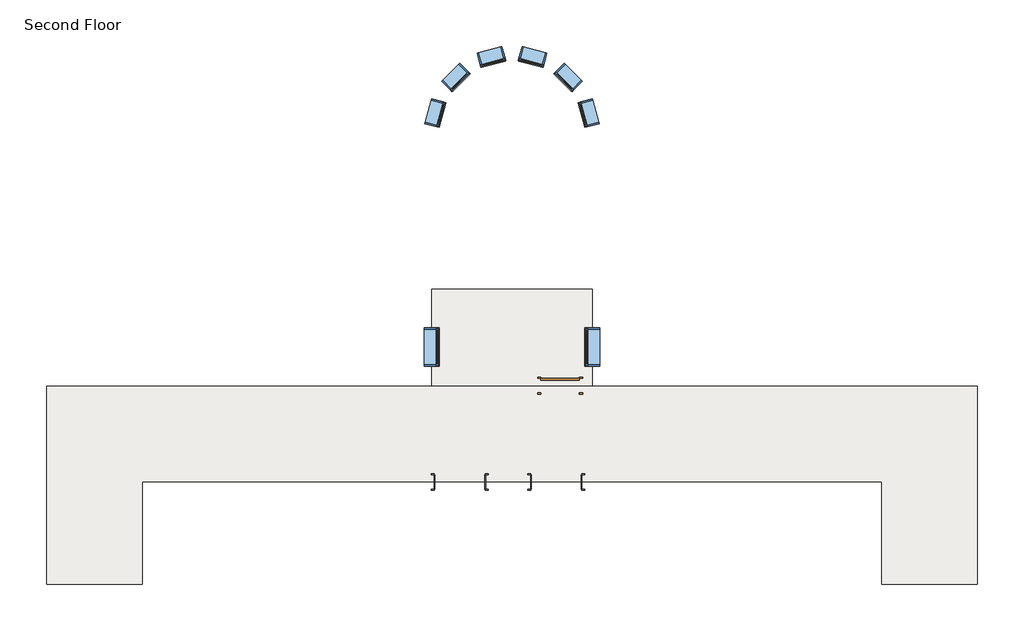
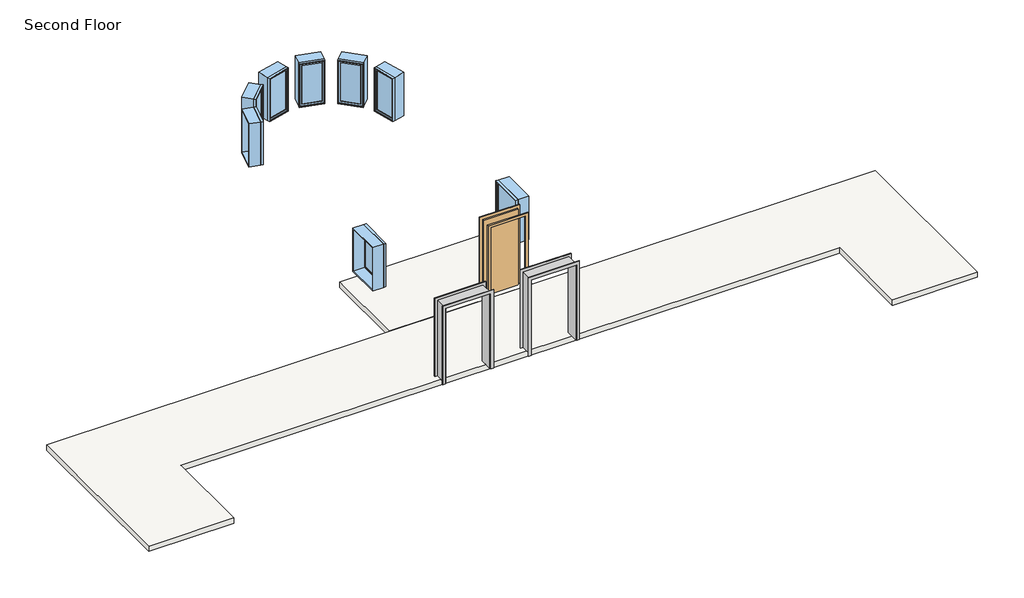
# One storey: 8 windows, 2 proxies, 2 slabs, 1 door.
"""IFC4 building model written with IfcOpenShell, lengths in millimetres."""

from ifc_helpers import new_model, si_unit, frame, origin, place, context, project, spatial, polyline, outline, extrude, transform, mapped, element, save
from components import m_passage_opening_cased_1220_x_2134mm_f04423fa, m_single_flush_0915_x_2134mm_1eac8bb1, m_fixed_0610_x_1220mm_2c28ef1d, m_fixed_0610_x_1220mm_1ea27827, m_fixed_0915_x_1220mm_bde29121

model = new_model("IFC4")

# Units and contexts
model_context = context("Model", 3, world=origin())
ifc_project = project(units=[si_unit("LENGTHUNIT", "METRE", prefix="MILLI")], contexts=[model_context])

# Site, building, storey
site = spatial("IfcSite", under=ifc_project)
building = spatial("IfcBuilding", under=site)
storey = spatial("IfcBuildingStorey", under=building, Name="Second Floor", Elevation=3048.0)

# Proxies
placement = place(None, origin())
m_passage_opening_cased_1220_x_2134mm_shape = m_passage_opening_cased_1220_x_2134mm_f04423fa(model_context)
element("IfcBuildingElementProxy", 1, Name="M_Passage Opening-Cased : 1220 x 2134mm", ObjectType="M_Passage Opening-Cased : 1220 x 2134mm", at=placement, inside=storey, context=model_context, shape_type="MappedRepresentation", body=[
    mapped(m_passage_opening_cased_1220_x_2134mm_shape, transform((3529.9038, -3050.7443399, 3048.0), x_axis=(-1.0, 0.0, 0.0), y_axis=(0.0, -1.0, 0.0), z_axis=(0.0, 0.0, 1.0))),
])
element("IfcBuildingElementProxy", 2, Name="M_Passage Opening-Cased : 1220 x 2134mm", ObjectType="M_Passage Opening-Cased : 1220 x 2134mm", at=placement, inside=storey, context=model_context, shape_type="MappedRepresentation", body=[
    mapped(m_passage_opening_cased_1220_x_2134mm_shape, transform((1260.2811134, -3050.7443399, 3048.0), x_axis=(1.0, 0.0, 0.0), y_axis=(0.0, 1.0, 0.0), z_axis=(0.0, 0.0, 1.0))),
])

# Door
m_single_flush_0915_x_2134mm_shape = m_single_flush_0915_x_2134mm_1eac8bb1(model_context)
element("IfcDoor", 3, ObjectType="M_Single-Flush : 0915 x 2134mm", at=placement, inside=storey, context=model_context, shape_type="MappedRepresentation", body=[
    mapped(m_single_flush_0915_x_2134mm_shape, transform((3632.0924567, -764.7443399, 3048.0), x_axis=(1.0, 0.0, 0.0), y_axis=(0.0, 1.0, 0.0), z_axis=(0.0, 0.0, 1.0))),
])

# Slabs
element("IfcSlab", 4, ObjectType="Generic 150mm", at=placement, inside=storey, context=model_context, shape_type="SweptSolid", body=[
    extrude(outline(polyline([(13528.0924567, -774.7443399), (13528.0924567, -5479.1443399), (11262.0924567, -5479.1443399), (11262.0924567, -3040.7443399), (-6283.9075433, -3040.7443399), (-6283.9075433, -5479.1443399), (-8549.9075433, -5479.1443399), (-8549.9075433, -774.7443399), (13528.0924567, -774.7443399)])), frame((0.0, 0.0, 2898.0), z_axis=(0.0, 0.0, 1.0), x_axis=(1.0, 0.0, 0.0)), (0.0, 0.0, 1.0), 150.0),
])
element("IfcSlab", 5, ObjectType="Generic 150mm", at=placement, inside=storey, context=model_context, shape_type="SweptSolid", body=[
    extrude(outline(polyline([(4394.0924567, -764.7443399), (584.0924567, -764.7443399), (584.0924567, 1521.2556601), (4394.0924567, 1521.2556601), (4394.0924567, -764.7443399)])), frame((0.0, 0.0, 2898.0), z_axis=(0.0, 0.0, 1.0), x_axis=(1.0, 0.0, 0.0)), (0.0, 0.0, 1.0), 150.0),
])

# Windows
m_fixed_0610_x_1220mm_shape = m_fixed_0610_x_1220mm_2c28ef1d(model_context)
element("IfcWindow", 6, ObjectType="M_Fixed : 0610 x 1220mm", at=placement, inside=storey, context=model_context, shape_type="MappedRepresentation", body=[
    mapped(m_fixed_0610_x_1220mm_shape, transform((658.1639152, 5700.8514842, 3048.0), x_axis=(-0.2588190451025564, -0.9659258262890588, 0.0), y_axis=(0.9659258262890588, -0.2588190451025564, 0.0), z_axis=(0.0, 0.0, 1.0))),
])
element("IfcWindow", 7, ObjectType="M_Fixed : 0610 x 1220mm", at=placement, inside=storey, context=model_context, shape_type="MappedRepresentation", body=[
    mapped(m_fixed_0610_x_1220mm_shape, transform((1998.4966326, 7041.1842016, 3048.0), x_axis=(-0.9659258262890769, -0.2588190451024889, 0.0), y_axis=(0.2588190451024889, -0.9659258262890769, 0.0), z_axis=(0.0, 0.0, 1.0))),
])
element("IfcWindow", 8, ObjectType="M_Fixed : 0610 x 1220mm", at=placement, inside=storey, context=model_context, shape_type="MappedRepresentation", body=[
    mapped(m_fixed_0610_x_1220mm_shape, transform((1148.7597393, 6550.5883775, 3048.0), x_axis=(-0.7071067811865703, -0.7071067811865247, 0.0), y_axis=(0.7071067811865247, -0.7071067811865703, 0.0), z_axis=(0.0, 0.0, 1.0))),
])
m_fixed_0610_x_1220mm_2_shape = m_fixed_0610_x_1220mm_1ea27827(model_context)
element("IfcWindow", 9, ObjectType="M_Fixed : 0610 x 1220mm", at=placement, inside=storey, context=model_context, shape_type="MappedRepresentation", body=[
    mapped(m_fixed_0610_x_1220mm_2_shape, transform((4320.0209983, 5700.8514842, 3048.0), x_axis=(0.2588190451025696, -0.9659258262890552, 0.0), y_axis=(0.9659258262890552, 0.2588190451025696, 0.0), z_axis=(0.0, 0.0, 1.0))),
])
element("IfcWindow", 10, ObjectType="M_Fixed : 0610 x 1220mm", at=placement, inside=storey, context=model_context, shape_type="MappedRepresentation", body=[
    mapped(m_fixed_0610_x_1220mm_2_shape, transform((2979.6882808, 7041.1842016, 3048.0), x_axis=(0.965925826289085, -0.2588190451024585, 0.0), y_axis=(0.2588190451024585, 0.965925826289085, 0.0), z_axis=(0.0, 0.0, 1.0))),
])
element("IfcWindow", 11, ObjectType="M_Fixed : 0610 x 1220mm", at=placement, inside=storey, context=model_context, shape_type="MappedRepresentation", body=[
    mapped(m_fixed_0610_x_1220mm_2_shape, transform((3829.4251742, 6550.5883775, 3048.0), x_axis=(0.7071067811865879, -0.7071067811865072, 0.0), y_axis=(0.7071067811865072, 0.7071067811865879, 0.0), z_axis=(0.0, 0.0, 1.0))),
])
m_fixed_0915_x_1220mm_shape = m_fixed_0915_x_1220mm_bde29121(model_context)
element("IfcWindow", 12, ObjectType="M_Fixed : 0915 x 1220mm", at=placement, inside=storey, context=model_context, shape_type="MappedRepresentation", body=[
    mapped(m_fixed_0915_x_1220mm_shape, transform((571.0924567, 150.2556601, 3048.0), x_axis=(0.0, -1.0, 0.0), y_axis=(1.0, 0.0, 0.0), z_axis=(0.0, 0.0, 1.0))),
])
element("IfcWindow", 13, ObjectType="M_Fixed : 0915 x 1220mm", at=placement, inside=storey, context=model_context, shape_type="MappedRepresentation", body=[
    mapped(m_fixed_0915_x_1220mm_shape, transform((4407.0924567, 150.2556601, 3048.0), x_axis=(0.0, 1.0, 0.0), y_axis=(-1.0, 0.0, 0.0), z_axis=(0.0, 0.0, 1.0))),
])

save(model, "model.ifc")
